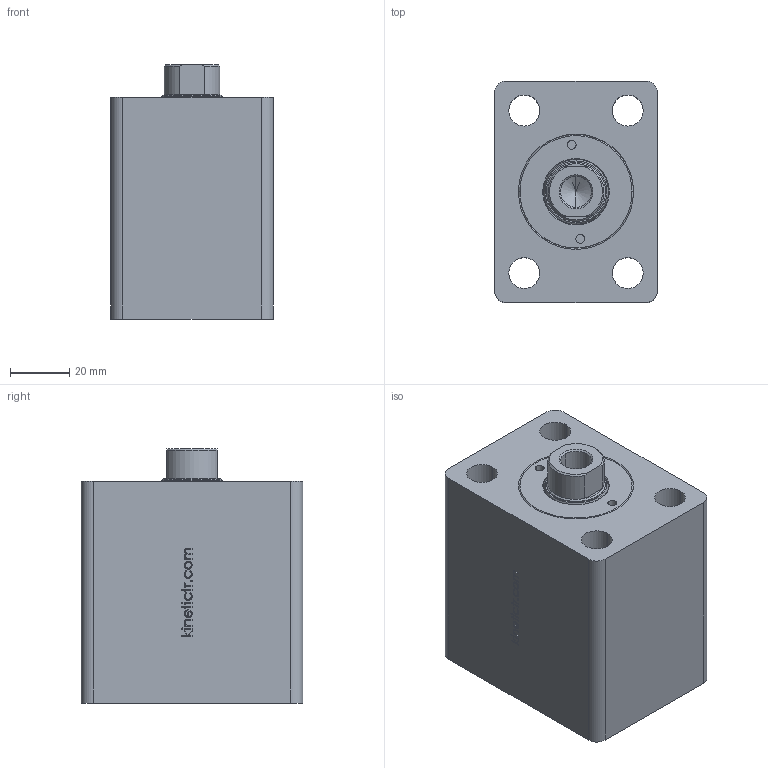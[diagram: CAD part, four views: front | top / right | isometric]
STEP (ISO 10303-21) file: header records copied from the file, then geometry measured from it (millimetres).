
FILE_DESCRIPTION (( 'STEP AP214' ), '1' );
FILE_NAME ('KBZ_02_32_20_25_WEB.STEP', '2020-05-27T09:18:27', ( '' ), ( '' ), 'SwSTEP 2.0', 'SolidWorks 2018', '' );
FILE_SCHEMA (( 'AUTOMOTIVE_DESIGN' ));
Length unit declared in the file: millimetre
Products named in the file (5): KBZ_02_32_GOVDE; KBZ_02_32_20_25_WEB; K06-20X25X4_3X6; KBZ_02_32_ON_kapak_WEB; 20_K_MIL
Assembly tree (4 placements, depth 2):
  KBZ_02_32_20_25_WEB
    KBZ_02_32_GOVDE
    20_K_MIL
    KBZ_02_32_ON_kapak_WEB
    K06-20X25X4_3X6
Bounding box: 55 x 75 x 86 mm (x, y, z)
Volume: 255910 mm3; surface area: 55737.6 mm2
Topology: 4 solids, 4 shells, 341 faces, 825 edges, 526 vertices
Faces by surface type: plane 133, cylinder 72, bspline 69, cone 67
Entity records: 13510 total; most frequent: CARTESIAN_POINT 5543, ORIENTED_EDGE 1646, DIRECTION 1438, EDGE_CURVE 823, VERTEX_POINT 526, AXIS2_PLACEMENT_3D 491, LINE 456, VECTOR 456
